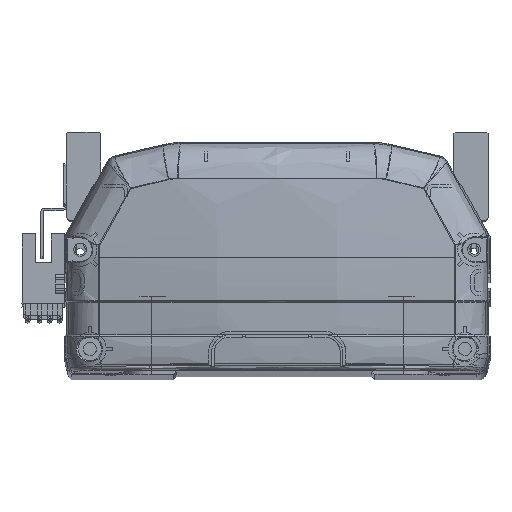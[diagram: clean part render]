
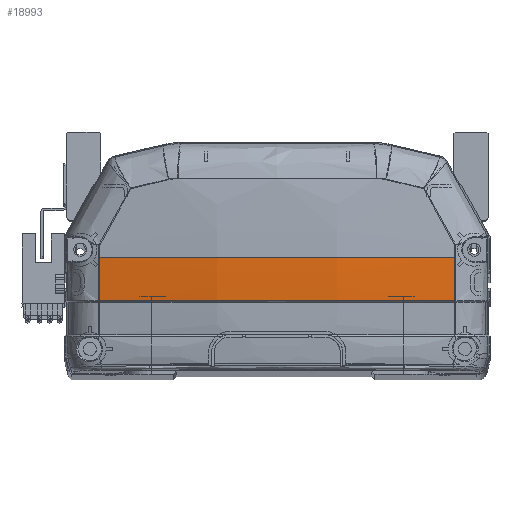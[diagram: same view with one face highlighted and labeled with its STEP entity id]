
A CAD part, top view. The second image highlights one B-rep face of the part: STEP entity #18993.
In plain terms, the highlighted free-form (B-spline) face has degree [3, 3] with [4, 4] control points.
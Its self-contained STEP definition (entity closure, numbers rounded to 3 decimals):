
#513 = CARTESIAN_POINT ( 'NONE',  ( -56.661, 22.225, -4.818 ) ) ;
#1817 = VERTEX_POINT ( 'NONE', #22234 ) ;
#1934 = CARTESIAN_POINT ( 'NONE',  ( -19.295, 21.828, -11.186 ) ) ;
#2123 = EDGE_CURVE ( 'NONE', #43664, #41224, #46288, .T. ) ;
#2126 = CARTESIAN_POINT ( 'NONE',  ( 56.661, 22.225, -4.818 ) ) ;
#3551 = CARTESIAN_POINT ( 'NONE',  ( 56.647, 31.387, -5.158 ) ) ;
#4051 = VERTEX_POINT ( 'NONE', #24687 ) ;
#4341 = B_SPLINE_CURVE_WITH_KNOTS ( 'NONE', 3,
 ( #33070, #40300, #32608, #513 ),
 .UNSPECIFIED., .F., .F.,
 ( 4, 4 ),
 ( 0., 1. ),
 .UNSPECIFIED. ) ;
#4511 = DIRECTION ( 'NONE',  ( 0., 1., 0. ) ) ;
#4669 = ORIENTED_EDGE ( 'NONE', *, *, #2123, .F. ) ;
#5107 = CARTESIAN_POINT ( 'NONE',  ( -19.295, 31.274, -11.535 ) ) ;
#5578 = CARTESIAN_POINT ( 'NONE',  ( -57.335, 36., -5.042 ) ) ;
#6460 = ORIENTED_EDGE ( 'NONE', *, *, #30446, .T. ) ;
#8107 = DIRECTION ( 'NONE',  ( 0., 0., -1. ) ) ;
#8719 = CARTESIAN_POINT ( 'NONE',  ( 2.357, 22.225, -9.562 ) ) ;
#8875 = CARTESIAN_POINT ( 'NONE',  ( 11.954, 22.225, -9.367 ) ) ;
#8893 = CARTESIAN_POINT ( 'NONE',  ( 19.295, 36., -11.535 ) ) ;
#9036 = CARTESIAN_POINT ( 'NONE',  ( -57.335, 22.148, -4.7 ) ) ;
#10614 = DIRECTION ( 'NONE',  ( -1., 0., 0. ) ) ;
#12236 = CARTESIAN_POINT ( 'NONE',  ( 8.363, 22.225, -9.48 ) ) ;
#12398 = CARTESIAN_POINT ( 'NONE',  ( 57.335, 26.762, -4.928 ) ) ;
#12529 = CARTESIAN_POINT ( 'NONE',  ( 4.761, 22.225, -9.537 ) ) ;
#14127 = CARTESIAN_POINT ( 'NONE',  ( 6452.613, 35.969, -5.158 ) ) ;
#14186 = CARTESIAN_POINT ( 'NONE',  ( 56.661, 22.225, -4.818 ) ) ;
#14930 = AXIS2_PLACEMENT_3D ( 'NONE', #14127, #32709, #10614 ) ;
#15277 = CARTESIAN_POINT ( 'NONE',  ( 0., 36., 330.833 ) ) ;
#17168 = ORIENTED_EDGE ( 'NONE', *, *, #40917, .F. ) ;
#18092 =( BOUNDED_SURFACE ( )  B_SPLINE_SURFACE ( 3, 3, ( 
 ( #19568, #12398, #27163, #30685 ),
 ( #45199, #41878, #23660, #8893 ),
 ( #1934, #30845, #5107, #41397 ),
 ( #9036, #41255, #27313, #5578 ) ),
 .UNSPECIFIED., .F., .F., .F. ) 
 B_SPLINE_SURFACE_WITH_KNOTS ( ( 4, 4 ),
 ( 4, 4 ),
 ( 0., 1. ),
 ( 0., 1. ),
 .UNSPECIFIED. ) 
 GEOMETRIC_REPRESENTATION_ITEM ( )  RATIONAL_B_SPLINE_SURFACE ( (
 ( 1., 1., 1., 1.),
 ( 0.99, 0.99, 0.99, 0.99),
 ( 0.99, 0.99, 0.99, 0.99),
 ( 1., 1., 1., 1.) ) ) 
 REPRESENTATION_ITEM ( '' )  SURFACE ( )  );
#18993 = ADVANCED_FACE ( 'NONE', ( #31662 ), #18092, .T. ) ;
#19568 = CARTESIAN_POINT ( 'NONE',  ( 57.335, 22.148, -4.7 ) ) ;
#21580 = B_SPLINE_CURVE_WITH_KNOTS ( 'NONE', 3,
 ( #14186, #21646, #3551, #36076 ),
 .UNSPECIFIED., .F., .F.,
 ( 4, 4 ),
 ( 0., 1. ),
 .UNSPECIFIED. ) ;
#21646 = CARTESIAN_POINT ( 'NONE',  ( 56.652, 26.806, -5.044 ) ) ;
#22234 = CARTESIAN_POINT ( 'NONE',  ( -56.647, 36., -5.158 ) ) ;
#23182 = CARTESIAN_POINT ( 'NONE',  ( -19.28, 22.225, -9.565 ) ) ;
#23522 = ORIENTED_EDGE ( 'NONE', *, *, #36643, .F. ) ;
#23660 = CARTESIAN_POINT ( 'NONE',  ( 19.295, 31.274, -11.535 ) ) ;
#24687 = CARTESIAN_POINT ( 'NONE',  ( -56.661, 22.225, -4.818 ) ) ;
#26994 = CARTESIAN_POINT ( 'NONE',  ( 19.121, 22.225, -9.064 ) ) ;
#27163 = CARTESIAN_POINT ( 'NONE',  ( 57.335, 31.38, -5.042 ) ) ;
#27296 = CARTESIAN_POINT ( 'NONE',  ( 1.152, 22.225, -9.568 ) ) ;
#27313 = CARTESIAN_POINT ( 'NONE',  ( -57.335, 31.38, -5.042 ) ) ;
#28615 = EDGE_LOOP ( 'NONE', ( #36084, #4669, #17168, #6460, #23522 ) ) ;
#30446 = EDGE_CURVE ( 'NONE', #46198, #4051, #45022, .T. ) ;
#30685 = CARTESIAN_POINT ( 'NONE',  ( 57.335, 36., -5.042 ) ) ;
#30845 = CARTESIAN_POINT ( 'NONE',  ( -19.295, 26.549, -11.419 ) ) ;
#31222 = CIRCLE ( 'NONE', #41589, 340.733 ) ;
#31662 = FACE_OUTER_BOUND ( 'NONE', #28615, .T. ) ;
#32207 = CARTESIAN_POINT ( 'NONE',  ( 56.647, 36., -5.158 ) ) ;
#32608 = CARTESIAN_POINT ( 'NONE',  ( -56.652, 26.814, -5.045 ) ) ;
#32709 = DIRECTION ( 'NONE',  ( 0., 0., -1. ) ) ;
#33070 = CARTESIAN_POINT ( 'NONE',  ( -56.647, 36., -5.158 ) ) ;
#36076 = CARTESIAN_POINT ( 'NONE',  ( 56.647, 35.969, -5.158 ) ) ;
#36084 = ORIENTED_EDGE ( 'NONE', *, *, #45150, .F. ) ;
#36643 = EDGE_CURVE ( 'NONE', #1817, #4051, #4341, .T. ) ;
#37916 = CARTESIAN_POINT ( 'NONE',  ( -38.235, 22.225, -7.93 ) ) ;
#38068 = CARTESIAN_POINT ( 'NONE',  ( 23.877, 22.225, -8.763 ) ) ;
#40300 = CARTESIAN_POINT ( 'NONE',  ( -56.647, 31.405, -5.158 ) ) ;
#40917 = EDGE_CURVE ( 'NONE', #46198, #43664, #21580, .T. ) ;
#41224 = VERTEX_POINT ( 'NONE', #32207 ) ;
#41255 = CARTESIAN_POINT ( 'NONE',  ( -57.335, 26.762, -4.928 ) ) ;
#41385 = CARTESIAN_POINT ( 'NONE',  ( 56.661, 22.225, -4.818 ) ) ;
#41397 = CARTESIAN_POINT ( 'NONE',  ( -19.295, 36., -11.535 ) ) ;
#41547 = CARTESIAN_POINT ( 'NONE',  ( 38.071, 22.225, -7.566 ) ) ;
#41589 = AXIS2_PLACEMENT_3D ( 'NONE', #15277, #4511, #8107 ) ;
#41878 = CARTESIAN_POINT ( 'NONE',  ( 19.295, 26.549, -11.419 ) ) ;
#42544 = CARTESIAN_POINT ( 'NONE',  ( 56.647, 35.969, -5.158 ) ) ;
#43664 = VERTEX_POINT ( 'NONE', #42544 ) ;
#44840 = CARTESIAN_POINT ( 'NONE',  ( -56.661, 22.225, -4.818 ) ) ;
#45013 = CARTESIAN_POINT ( 'NONE',  ( 47.432, 22.225, -6.377 ) ) ;
#45022 = B_SPLINE_CURVE_WITH_KNOTS ( 'NONE', 3,
 ( #41385, #45013, #41547, #38068, #26994, #8875, #12236, #12529, #8719, #27296, #23182, #37916, #44840 ),
 .UNSPECIFIED., .F., .F.,
 ( 4, 2, 2, 1, 2, 2, 4 ),
 ( 0., 0.25, 0.375, 0.438, 0.469, 0.5, 1. ),
 .UNSPECIFIED. ) ;
#45150 = EDGE_CURVE ( 'NONE', #41224, #1817, #31222, .T. ) ;
#45199 = CARTESIAN_POINT ( 'NONE',  ( 19.295, 21.828, -11.186 ) ) ;
#46198 = VERTEX_POINT ( 'NONE', #2126 ) ;
#46288 = CIRCLE ( 'NONE', #14930, 6395.966 ) ;
